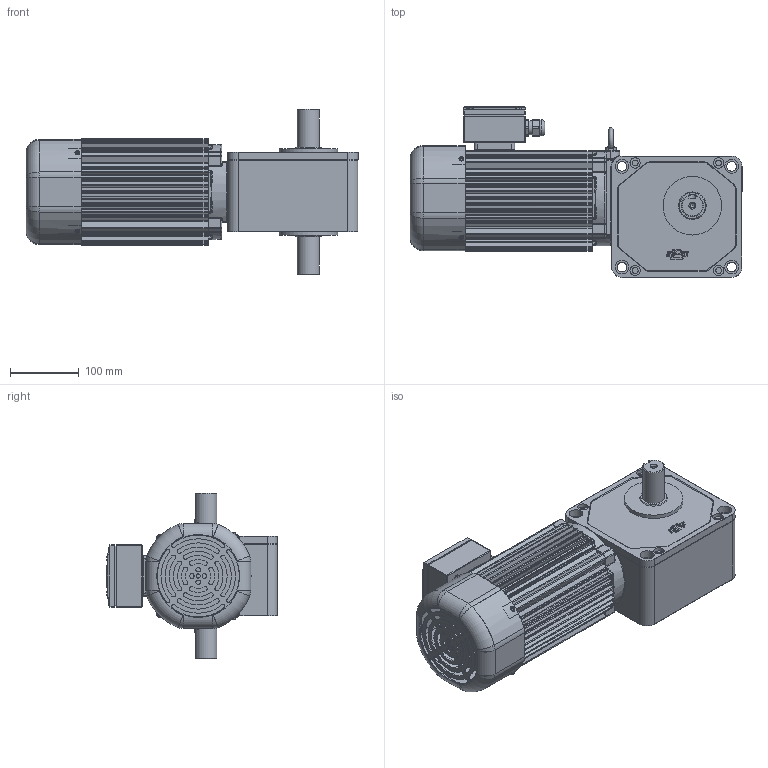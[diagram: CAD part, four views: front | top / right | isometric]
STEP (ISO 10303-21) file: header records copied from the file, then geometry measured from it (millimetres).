
FILE_DESCRIPTION(/* description */ (''),/* implementation_level */ '2;1');
FILE_NAME(/* name */ 'Z:\동력 3D 파일\PCS32B_0.75kW_Brake_3D.stp',/* time_stamp */ '2021-11-09T11:50:13+09:00',/* author */ ('jaebok'),/* organization */ (''),/* preprocessor_version */ 'ST-DEVELOPER v18.1',/* originating_system */ 'Autodesk Inventor 2022',/* authorisation */ '');
FILE_SCHEMA (('AUTOMOTIVE_DESIGN { 1 0 10303 214 3 1 1 }'));
Products named in the file (1): 부품62
Bounding box: 481.5 x 248 x 240 mm (x, y, z)
Volume: 3377152.6 mm3; surface area: 800336 mm2
Topology: 1 solids, 26 shells, 2012 faces, 5270 edges, 3320 vertices
Faces by surface type: plane 921, cylinder 773, torus 125, bspline 117, cone 60, sphere 16
Full cylindrical faces by diameter (mm): 3.25 x1, 3.6 x4, 4 x18, 5 x13, 6 x5, 6.647 x3, 7 x13, 8 x5, 8.5 x4, 10 x1, 12.5 x1, 14 x4, 15 x5, 20 x14, 20.6 x1, 21 x1, 23.6 x1, 25 x1, 32 x2, 40 x2, 54.5 x1, 72 x2, 85 x2, 119 x1, 122 x1, 125 x1, 128 x1, 131 x4
Entity records: 68033 total; most frequent: CARTESIAN_POINT 15991, DIRECTION 10855, ORIENTED_EDGE 10450, EDGE_CURVE 5225, AXIS2_PLACEMENT_3D 4068, VERTEX_POINT 3312, LINE 2719, VECTOR 2719
